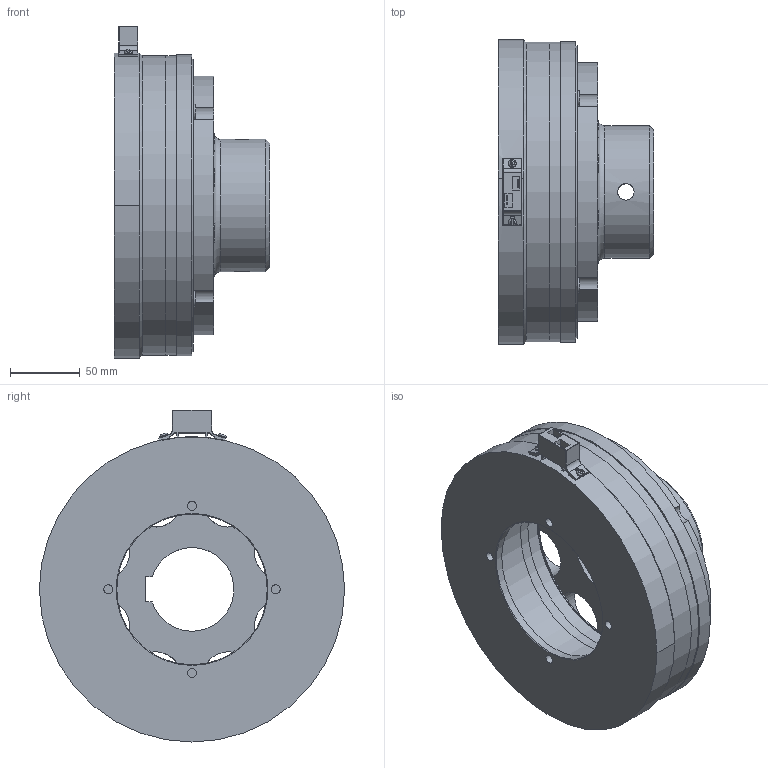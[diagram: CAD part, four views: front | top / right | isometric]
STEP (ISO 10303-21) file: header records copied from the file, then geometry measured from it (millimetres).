
FILE_DESCRIPTION(/* description */ (''),/* implementation_level */ '2;1');
FILE_NAME(/* name */ 'X:\INVENTOR\DISEGNI\08_Freni_Friz_Elettmag_Monodisco\08_28 EMFL_DF\EMFL_DF STEP\08_28_210_12 EMFL210_DF-C-ME_Spina@STEP.stp',/* time_stamp */ '2018-04-23T10:47:59+02:00',/* author */ ('stefano'),/* organization */ (''),/* preprocessor_version */ 'ST-DEVELOPER v17',/* originating_system */ 'Autodesk Inventor 2018',/* authorisation */ '');
FILE_SCHEMA (('AUTOMOTIVE_DESIGN { 1 0 10303 214 3 1 1 }'));
Length unit declared in the file: millimetre
Products named in the file (1): 08_28_210_12 EMFL210_DF-C-ME - Spina_Substitute_1
Bounding box: 111.5 x 219 x 238.25 mm (x, y, z)
Volume: 1428703.2 mm3; surface area: 314054.5 mm2
Topology: 1 solids, 1 shells, 507 faces, 1547 edges, 965 vertices
Faces by surface type: cylinder 257, plane 159, cone 36, torus 35, sphere 20
Full cylindrical faces by diameter (mm): 5.6 x2, 6 x1, 6.5 x4, 6.647 x4, 7 x8, 11 x8, 11.835 x2, 13 x16, 38 x8, 95 x1, 108 x1, 132 x2, 134 x1, 136 x1, 154.5 x1, 164 x2, 192 x2, 198.5 x1, 210 x1, 215 x2, 216 x1
Entity records: 18873 total; most frequent: CARTESIAN_POINT 3840, DIRECTION 3377, ORIENTED_EDGE 3048, EDGE_CURVE 1524, AXIS2_PLACEMENT_3D 1446, VERTEX_POINT 965, CIRCLE 938, EDGE_LOOP 593
